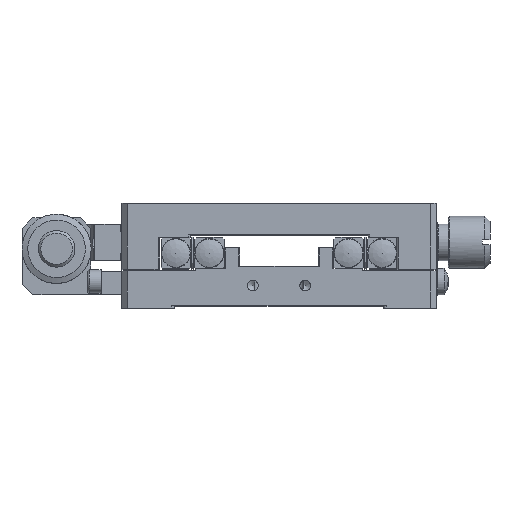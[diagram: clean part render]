
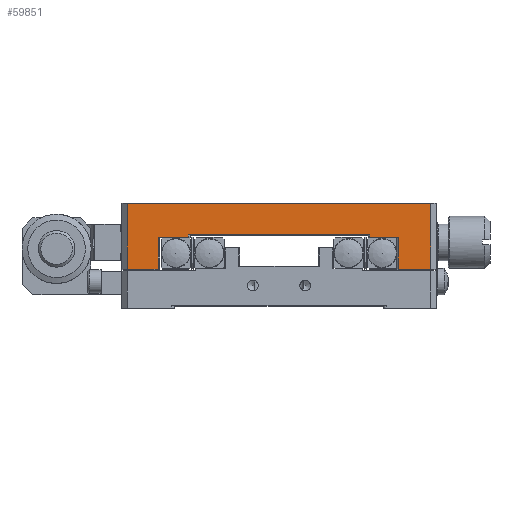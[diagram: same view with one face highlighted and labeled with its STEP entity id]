
A CAD part, top view. The second image highlights one B-rep face of the part: STEP entity #59851.
In plain terms, the highlighted planar face has unit normal (0, 0, 1).
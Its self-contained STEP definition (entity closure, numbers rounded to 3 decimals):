
#1969 = VERTEX_POINT ( 'NONE', #57259 ) ;
#2486 = EDGE_CURVE ( 'NONE', #44887, #84484, #80173, .T. ) ;
#4894 = VERTEX_POINT ( 'NONE', #15028 ) ;
#7489 = CARTESIAN_POINT ( 'NONE',  ( -1.562, 74.103, 68.814 ) ) ;
#7903 = LINE ( 'NONE', #7489, #47609 ) ;
#8274 = CARTESIAN_POINT ( 'NONE',  ( -1.262, 74.103, 68.814 ) ) ;
#9915 = VERTEX_POINT ( 'NONE', #20431 ) ;
#10505 = LINE ( 'NONE', #75149, #32438 ) ;
#10625 = DIRECTION ( 'NONE',  ( 0., 1., 0. ) ) ;
#12969 = AXIS2_PLACEMENT_3D ( 'NONE', #53733, #19667, #13247 ) ;
#13247 = DIRECTION ( 'NONE',  ( -1., 0., 0. ) ) ;
#13414 = CARTESIAN_POINT ( 'NONE',  ( -1.562, 74.103, 68.814 ) ) ;
#13882 = LINE ( 'NONE', #39953, #82297 ) ;
#15028 = CARTESIAN_POINT ( 'NONE',  ( -47.162, 74.103, 68.814 ) ) ;
#15980 = DIRECTION ( 'NONE',  ( 0., -1., 0. ) ) ;
#17222 = VECTOR ( 'NONE', #28414, 1000. ) ;
#19667 = DIRECTION ( 'NONE',  ( 0., 0., -1. ) ) ;
#20286 = CARTESIAN_POINT ( 'NONE',  ( -1.262, 68.003, 68.814 ) ) ;
#20431 = CARTESIAN_POINT ( 'NONE',  ( -41.362, 74.603, 68.814 ) ) ;
#21822 = CARTESIAN_POINT ( 'NONE',  ( -53.062, 80.603, 68.814 ) ) ;
#23721 = VERTEX_POINT ( 'NONE', #55833 ) ;
#24017 = EDGE_CURVE ( 'NONE', #80079, #4894, #13882, .T. ) ;
#24607 = ORIENTED_EDGE ( 'NONE', *, *, #31567, .T. ) ;
#24686 = DIRECTION ( 'NONE',  ( -1., 0., 0. ) ) ;
#25122 = ORIENTED_EDGE ( 'NONE', *, *, #82547, .T. ) ;
#25427 = EDGE_CURVE ( 'NONE', #25441, #31215, #38798, .T. ) ;
#25441 = VERTEX_POINT ( 'NONE', #57194 ) ;
#25673 = EDGE_CURVE ( 'NONE', #72798, #23721, #61838, .T. ) ;
#26990 = VECTOR ( 'NONE', #15980, 1000. ) ;
#27163 = CARTESIAN_POINT ( 'NONE',  ( -6.762, 80.603, 68.814 ) ) ;
#27560 = EDGE_CURVE ( 'NONE', #58371, #9915, #49448, .T. ) ;
#27710 = VECTOR ( 'NONE', #24686, 1000. ) ;
#27923 = ORIENTED_EDGE ( 'NONE', *, *, #75392, .T. ) ;
#28414 = DIRECTION ( 'NONE',  ( 0., -1., 0. ) ) ;
#29876 = VECTOR ( 'NONE', #40738, 1000. ) ;
#31215 = VERTEX_POINT ( 'NONE', #21822 ) ;
#31567 = EDGE_CURVE ( 'NONE', #84484, #72798, #68769, .T. ) ;
#32438 = VECTOR ( 'NONE', #54166, 1000. ) ;
#33133 = DIRECTION ( 'NONE',  ( 0., 1., 0. ) ) ;
#34000 = LINE ( 'NONE', #27163, #17222 ) ;
#34226 = CARTESIAN_POINT ( 'NONE',  ( -41.362, 80.603, 68.814 ) ) ;
#38478 = PLANE ( 'NONE',  #12969 ) ;
#38798 = LINE ( 'NONE', #82936, #27710 ) ;
#38909 = FACE_OUTER_BOUND ( 'NONE', #63654, .T. ) ;
#39953 = CARTESIAN_POINT ( 'NONE',  ( -47.162, 80.603, 68.814 ) ) ;
#40738 = DIRECTION ( 'NONE',  ( 1., 0., 0. ) ) ;
#42065 = CARTESIAN_POINT ( 'NONE',  ( -41.362, 74.103, 68.814 ) ) ;
#42568 = ORIENTED_EDGE ( 'NONE', *, *, #2486, .T. ) ;
#42892 = VECTOR ( 'NONE', #62721, 1000. ) ;
#43120 = LINE ( 'NONE', #69251, #43552 ) ;
#43552 = VECTOR ( 'NONE', #10625, 1000. ) ;
#44887 = VERTEX_POINT ( 'NONE', #77998 ) ;
#46831 = DIRECTION ( 'NONE',  ( 1., 0., 0. ) ) ;
#47609 = VECTOR ( 'NONE', #46831, 1000. ) ;
#47756 = EDGE_CURVE ( 'NONE', #1969, #80079, #10505, .T. ) ;
#48653 = CARTESIAN_POINT ( 'NONE',  ( -1.262, 80.603, 68.814 ) ) ;
#48952 = ORIENTED_EDGE ( 'NONE', *, *, #24017, .T. ) ;
#49448 = LINE ( 'NONE', #75171, #42892 ) ;
#50330 = ORIENTED_EDGE ( 'NONE', *, *, #27560, .F. ) ;
#53653 = CARTESIAN_POINT ( 'NONE',  ( -53.062, 80.603, 68.814 ) ) ;
#53733 = CARTESIAN_POINT ( 'NONE',  ( -54.062, 80.603, 68.814 ) ) ;
#54166 = DIRECTION ( 'NONE',  ( 1., 0., 0. ) ) ;
#55833 = CARTESIAN_POINT ( 'NONE',  ( 4.938, 68.003, 68.814 ) ) ;
#56229 = ORIENTED_EDGE ( 'NONE', *, *, #25673, .T. ) ;
#57194 = CARTESIAN_POINT ( 'NONE',  ( 4.938, 80.603, 68.814 ) ) ;
#57259 = CARTESIAN_POINT ( 'NONE',  ( -53.062, 68.003, 68.814 ) ) ;
#58371 = VERTEX_POINT ( 'NONE', #59417 ) ;
#58810 = VECTOR ( 'NONE', #74034, 1000. ) ;
#59417 = CARTESIAN_POINT ( 'NONE',  ( -6.762, 74.603, 68.814 ) ) ;
#59851 = ADVANCED_FACE ( 'NONE', ( #38909 ), #38478, .F. ) ;
#61494 = DIRECTION ( 'NONE',  ( 0., -1., 0. ) ) ;
#61838 = LINE ( 'NONE', #68690, #68695 ) ;
#62246 = EDGE_CURVE ( 'NONE', #58371, #44887, #34000, .T. ) ;
#62721 = DIRECTION ( 'NONE',  ( -1., 0., 0. ) ) ;
#63654 = EDGE_LOOP ( 'NONE', ( #50330, #79357, #42568, #24607, #56229, #25122, #80353, #79984, #66554, #48952, #68770, #27923 ) ) ;
#66061 = EDGE_CURVE ( 'NONE', #31215, #1969, #67343, .T. ) ;
#66554 = ORIENTED_EDGE ( 'NONE', *, *, #47756, .T. ) ;
#67343 = LINE ( 'NONE', #53653, #26990 ) ;
#68265 = DIRECTION ( 'NONE',  ( 1., 0., 0. ) ) ;
#68690 = CARTESIAN_POINT ( 'NONE',  ( 5.938, 68.003, 68.814 ) ) ;
#68695 = VECTOR ( 'NONE', #68265, 1000. ) ;
#68769 = LINE ( 'NONE', #48653, #76766 ) ;
#68770 = ORIENTED_EDGE ( 'NONE', *, *, #71239, .T. ) ;
#69251 = CARTESIAN_POINT ( 'NONE',  ( 4.938, 80.603, 68.814 ) ) ;
#70567 = VERTEX_POINT ( 'NONE', #42065 ) ;
#71239 = EDGE_CURVE ( 'NONE', #4894, #70567, #7903, .T. ) ;
#72798 = VERTEX_POINT ( 'NONE', #20286 ) ;
#74034 = DIRECTION ( 'NONE',  ( 0., 1., 0. ) ) ;
#74641 = CARTESIAN_POINT ( 'NONE',  ( -47.162, 68.003, 68.814 ) ) ;
#75149 = CARTESIAN_POINT ( 'NONE',  ( -46.562, 68.003, 68.814 ) ) ;
#75171 = CARTESIAN_POINT ( 'NONE',  ( -41.062, 74.603, 68.814 ) ) ;
#75392 = EDGE_CURVE ( 'NONE', #70567, #9915, #80474, .T. ) ;
#76766 = VECTOR ( 'NONE', #61494, 1000. ) ;
#77998 = CARTESIAN_POINT ( 'NONE',  ( -6.762, 74.103, 68.814 ) ) ;
#79357 = ORIENTED_EDGE ( 'NONE', *, *, #62246, .T. ) ;
#79984 = ORIENTED_EDGE ( 'NONE', *, *, #66061, .T. ) ;
#80079 = VERTEX_POINT ( 'NONE', #74641 ) ;
#80173 = LINE ( 'NONE', #13414, #29876 ) ;
#80353 = ORIENTED_EDGE ( 'NONE', *, *, #25427, .T. ) ;
#80474 = LINE ( 'NONE', #34226, #58810 ) ;
#82297 = VECTOR ( 'NONE', #33133, 1000. ) ;
#82547 = EDGE_CURVE ( 'NONE', #23721, #25441, #43120, .T. ) ;
#82936 = CARTESIAN_POINT ( 'NONE',  ( -54.062, 80.603, 68.814 ) ) ;
#84484 = VERTEX_POINT ( 'NONE', #8274 ) ;
